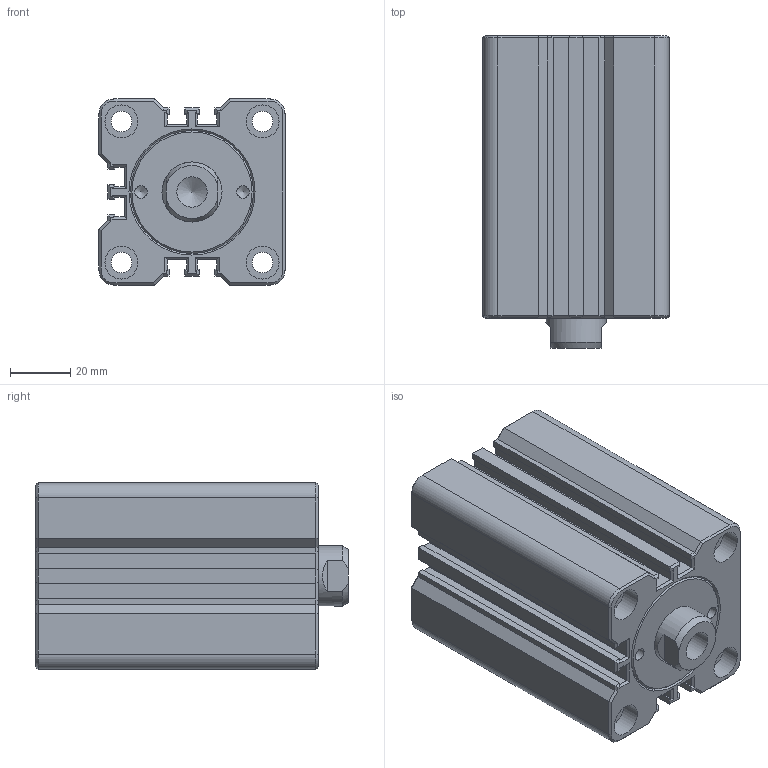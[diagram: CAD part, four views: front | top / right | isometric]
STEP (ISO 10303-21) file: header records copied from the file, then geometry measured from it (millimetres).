
FILE_DESCRIPTION(/* description */ ('Unknown'),/* implementation_level */ '2;1');
FILE_NAME(/* name */ 'HTM70-SDMB32X40N',/* time_stamp */ '2022-08-31T05:40:19+08:00',/* author */ ('Unknown'),/* organization */ ('Unknown'),/* preprocessor_version */ 'ST-DEVELOPER v16.7',/* originating_system */ 'DEX',/* authorisation */ $);
FILE_SCHEMA (('AUTOMOTIVE_DESIGN {1 0 10303 214 3 1 1}'));
Length unit declared in the file: millimetre
Products named in the file (1): HTM70-SDMB32X40N
Bounding box: 62 x 104 x 62 mm (x, y, z)
Volume: 304068.3 mm3; surface area: 50081 mm2
Topology: 1 solids, 1 shells, 321 faces, 746 edges, 447 vertices
Faces by surface type: plane 218, cone 40, bspline 36, cylinder 27
Full cylindrical faces by diameter (mm): 4.1 x2, 5 x2, 6 x1, 6.8 x4, 10.106 x1, 11 x8, 12 x2, 13 x2, 20 x1
Entity records: 11197 total; most frequent: CARTESIAN_POINT 2127, ORIENTED_EDGE 1386, DIRECTION 1284, EDGE_CURVE 693, LINE 486, VECTOR 486, VERTEX_POINT 434, AXIS2_PLACEMENT_3D 399
